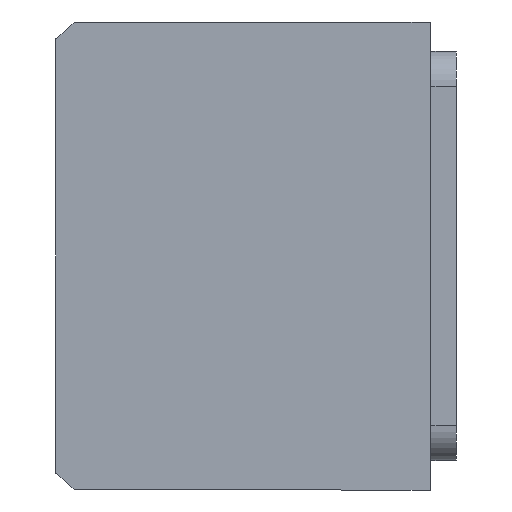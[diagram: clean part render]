
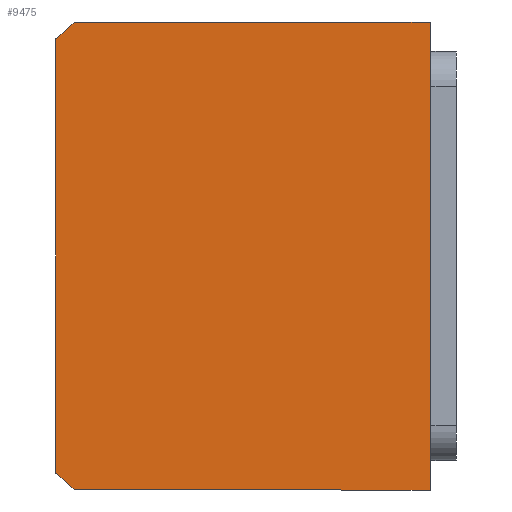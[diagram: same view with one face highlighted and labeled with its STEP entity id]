
A CAD part, front view. The second image highlights one B-rep face of the part: STEP entity #9475.
In plain terms, the highlighted planar face has unit normal (0, -1, 0) as drawn and (0, 0, -1) by its records, which use the part's own axes.
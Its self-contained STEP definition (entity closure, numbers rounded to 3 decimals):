
#610 = VECTOR ( 'NONE', #3763, 1000. ) ;
#859 = DIRECTION ( 'NONE',  ( 0., -1., 0. ) ) ;
#897 = CARTESIAN_POINT ( 'NONE',  ( 37.094, -75.507, 0. ) ) ;
#959 = ORIENTED_EDGE ( 'NONE', *, *, #6348, .F. ) ;
#1116 = EDGE_CURVE ( 'NONE', #1944, #5640, #7760, .T. ) ;
#1556 = CARTESIAN_POINT ( 'NONE',  ( 40., -11.507, 0. ) ) ;
#1666 = EDGE_CURVE ( 'NONE', #9340, #8942, #2732, .T. ) ;
#1831 = DIRECTION ( 'NONE',  ( 0., 0., 1. ) ) ;
#1901 = AXIS2_PLACEMENT_3D ( 'NONE', #4923, #1831, #7315 ) ;
#1944 = VERTEX_POINT ( 'NONE', #1556 ) ;
#2081 = EDGE_LOOP ( 'NONE', ( #3867, #959, #10171, #2688, #3177, #8518 ) ) ;
#2475 = CARTESIAN_POINT ( 'NONE',  ( -40., -11.507, 0. ) ) ;
#2546 = CARTESIAN_POINT ( 'NONE',  ( 0., -40.507, 0. ) ) ;
#2688 = ORIENTED_EDGE ( 'NONE', *, *, #5824, .F. ) ;
#2732 = CIRCLE ( 'NONE', #10027, 51. ) ;
#2988 = CARTESIAN_POINT ( 'NONE',  ( -40., -75.507, 0. ) ) ;
#3177 = ORIENTED_EDGE ( 'NONE', *, *, #1666, .F. ) ;
#3341 = DIRECTION ( 'NONE',  ( 1., 0., 0. ) ) ;
#3592 = VECTOR ( 'NONE', #7486, 1000. ) ;
#3682 = VERTEX_POINT ( 'NONE', #9357 ) ;
#3763 = DIRECTION ( 'NONE',  ( 1., 0., 0. ) ) ;
#3867 = ORIENTED_EDGE ( 'NONE', *, *, #8992, .F. ) ;
#4137 = PLANE ( 'NONE',  #1901 ) ;
#4357 = CARTESIAN_POINT ( 'NONE',  ( 0., -40.507, 0. ) ) ;
#4607 = FACE_OUTER_BOUND ( 'NONE', #2081, .T. ) ;
#4725 = CIRCLE ( 'NONE', #5948, 51. ) ;
#4923 = CARTESIAN_POINT ( 'NONE',  ( 0., 0., 0. ) ) ;
#5085 = CARTESIAN_POINT ( 'NONE',  ( 40., -72.145, 0. ) ) ;
#5151 = DIRECTION ( 'NONE',  ( 1., 0., 0. ) ) ;
#5640 = VERTEX_POINT ( 'NONE', #8201 ) ;
#5824 = EDGE_CURVE ( 'NONE', #8942, #1944, #8255, .T. ) ;
#5948 = AXIS2_PLACEMENT_3D ( 'NONE', #4357, #9876, #5151 ) ;
#6348 = EDGE_CURVE ( 'NONE', #5640, #3682, #8132, .T. ) ;
#6864 = LINE ( 'NONE', #2988, #610 ) ;
#7076 = EDGE_CURVE ( 'NONE', #7130, #9340, #6864, .T. ) ;
#7130 = VERTEX_POINT ( 'NONE', #7779 ) ;
#7315 = DIRECTION ( 'NONE',  ( 1., 0., 0. ) ) ;
#7486 = DIRECTION ( 'NONE',  ( -1., 0., 0. ) ) ;
#7590 = CARTESIAN_POINT ( 'NONE',  ( -40., -11.507, 0. ) ) ;
#7760 = LINE ( 'NONE', #7590, #3592 ) ;
#7779 = CARTESIAN_POINT ( 'NONE',  ( -37.094, -75.507, 0. ) ) ;
#8013 = VECTOR ( 'NONE', #8153, 1000. ) ;
#8024 = DIRECTION ( 'NONE',  ( 0., 0., 1. ) ) ;
#8132 = LINE ( 'NONE', #2475, #9983 ) ;
#8153 = DIRECTION ( 'NONE',  ( 0., 1., 0. ) ) ;
#8201 = CARTESIAN_POINT ( 'NONE',  ( -40., -11.507, 0. ) ) ;
#8255 = LINE ( 'NONE', #8941, #8013 ) ;
#8518 = ORIENTED_EDGE ( 'NONE', *, *, #7076, .F. ) ;
#8941 = CARTESIAN_POINT ( 'NONE',  ( 40., -11.507, 0. ) ) ;
#8942 = VERTEX_POINT ( 'NONE', #5085 ) ;
#8992 = EDGE_CURVE ( 'NONE', #3682, #7130, #4725, .T. ) ;
#9340 = VERTEX_POINT ( 'NONE', #897 ) ;
#9357 = CARTESIAN_POINT ( 'NONE',  ( -40., -72.145, 0. ) ) ;
#9475 = ADVANCED_FACE ( 'NONE', ( #4607 ), #4137, .F. ) ;
#9876 = DIRECTION ( 'NONE',  ( 0., 0., 1. ) ) ;
#9983 = VECTOR ( 'NONE', #859, 1000. ) ;
#10027 = AXIS2_PLACEMENT_3D ( 'NONE', #2546, #8024, #3341 ) ;
#10171 = ORIENTED_EDGE ( 'NONE', *, *, #1116, .F. ) ;
